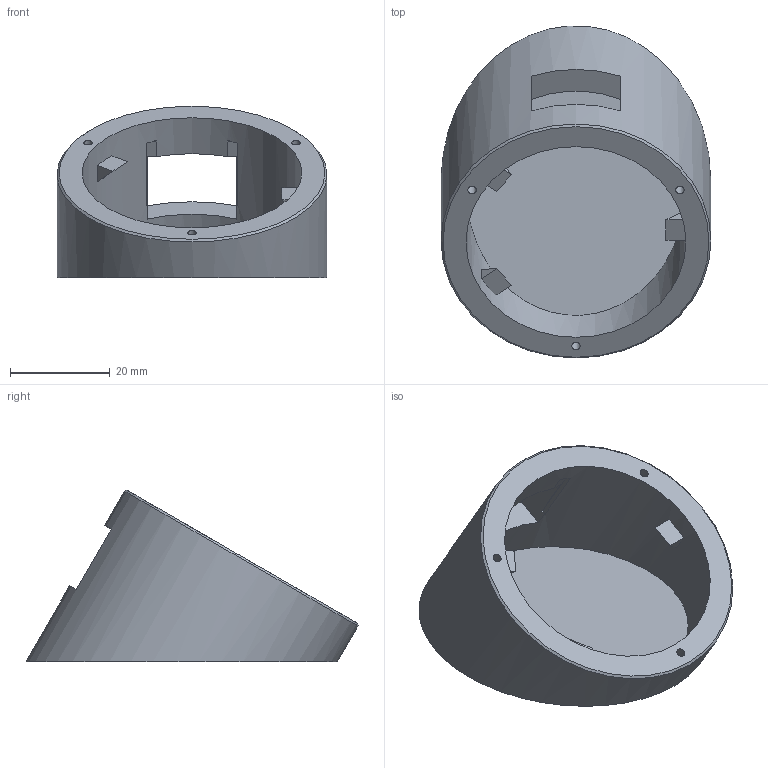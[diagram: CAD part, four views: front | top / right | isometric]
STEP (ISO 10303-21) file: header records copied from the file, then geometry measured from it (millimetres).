
FILE_DESCRIPTION(('Open CASCADE Model'),'2;1');
FILE_NAME('Open CASCADE Shape Model','2026-11-04T16:22:49',('Author'),( 'Open CASCADE'),'Open CASCADE STEP processor 7.9','Open CASCADE 7.9' ,'Unknown');
FILE_SCHEMA(('AUTOMOTIVE_DESIGN { 1 0 10303 214 1 1 1 1 }'));
Length unit declared in the file: millimetre
Products named in the file (1): Open CASCADE STEP translator 7.9 1
Bounding box: 54 x 66.43 x 34.3 mm (x, y, z)
Volume: 21624.7 mm3; surface area: 12278.3 mm2
Topology: 1 solids, 1 shells, 36 faces, 83 edges, 55 vertices
Faces by surface type: plane 30, cylinder 5, cone 1
Full cylindrical faces by diameter (mm): 1.7 x3, 44 x1, 54 x1
Entity records: 2195 total; most frequent: CARTESIAN_POINT 545, DIRECTION 292, ORIENTED_EDGE 166, PCURVE 166, DEFINITIONAL_REPRESENTATION 166, LINE 150, VECTOR 150, EDGE_CURVE 83
